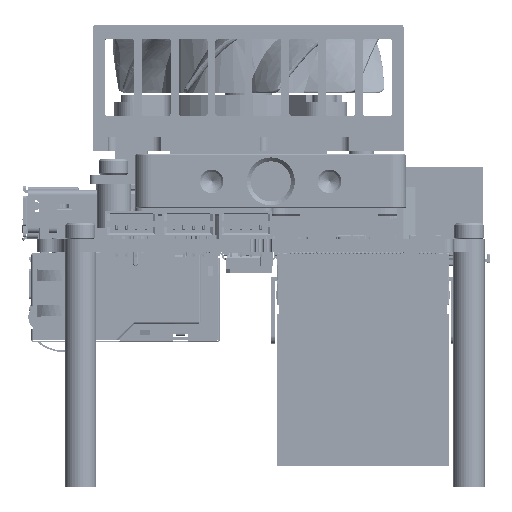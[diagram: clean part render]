
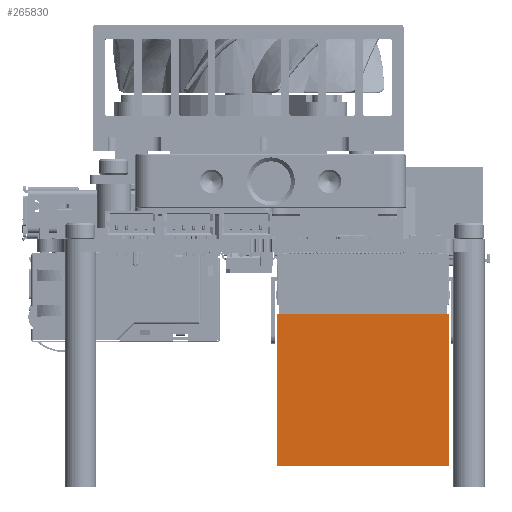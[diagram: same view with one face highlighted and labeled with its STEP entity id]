
A CAD part, left-side view. The second image highlights one B-rep face of the part: STEP entity #265830.
In plain terms, the highlighted planar face has unit normal (-1, 0, 0) as drawn and (0, -1, 0) by its records, which use the part's own axes.
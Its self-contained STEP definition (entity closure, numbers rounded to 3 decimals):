
#265830=ADVANCED_FACE('',(#347816),#295588,.F.);
#295588=PLANE('',#1149222);
#347816=FACE_OUTER_BOUND('',#402102,.T.);
#402102=EDGE_LOOP('',(#668656,#668657,#668658,#668659));
#668656=ORIENTED_EDGE('',*,*,#885652,.T.);
#668657=ORIENTED_EDGE('',*,*,#885030,.F.);
#668658=ORIENTED_EDGE('',*,*,#885653,.F.);
#668659=ORIENTED_EDGE('',*,*,#885650,.T.);
#751713=VERTEX_POINT('',#1742889);
#751714=VERTEX_POINT('',#1742891);
#752119=VERTEX_POINT('',#1744118);
#752120=VERTEX_POINT('',#1744120);
#885030=EDGE_CURVE('',#751713,#751714,#977635,.T.);
#885650=EDGE_CURVE('',#752120,#752119,#978245,.T.);
#885652=EDGE_CURVE('',#752119,#751714,#978247,.T.);
#885653=EDGE_CURVE('',#752120,#751713,#978248,.T.);
#977635=LINE('',#1742890,#1070223);
#978245=LINE('',#1744119,#1070833);
#978247=LINE('',#1744123,#1070835);
#978248=LINE('',#1744124,#1070836);
#1070223=VECTOR('',#1397486,1.);
#1070833=VECTOR('',#1398522,1.);
#1070835=VECTOR('',#1398526,1.);
#1070836=VECTOR('',#1398527,1.);
#1149222=AXIS2_PLACEMENT_3D('',#1744125,#1398528,#1398529);
#1397486=DIRECTION('',(-1.,0.,0.));
#1398522=DIRECTION('',(-1.,0.,0.));
#1398526=DIRECTION('',(0.,0.,-1.));
#1398527=DIRECTION('',(0.,0.,-1.));
#1398528=DIRECTION('',(0.,1.,0.));
#1398529=DIRECTION('',(0.,0.,1.));
#1742889=CARTESIAN_POINT('',(22.,0.,0.));
#1742890=CARTESIAN_POINT('',(22.,0.,0.));
#1742891=CARTESIAN_POINT('',(0.,0.,0.));
#1744118=CARTESIAN_POINT('',(0.,0.,19.3));
#1744119=CARTESIAN_POINT('',(22.,0.,19.3));
#1744120=CARTESIAN_POINT('',(22.,0.,19.3));
#1744123=CARTESIAN_POINT('',(0.,0.,19.3));
#1744124=CARTESIAN_POINT('',(22.,0.,4.));
#1744125=CARTESIAN_POINT('',(22.,0.,19.3));
